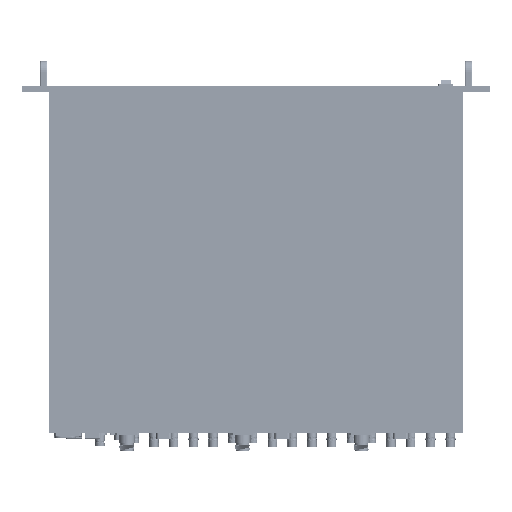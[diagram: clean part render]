
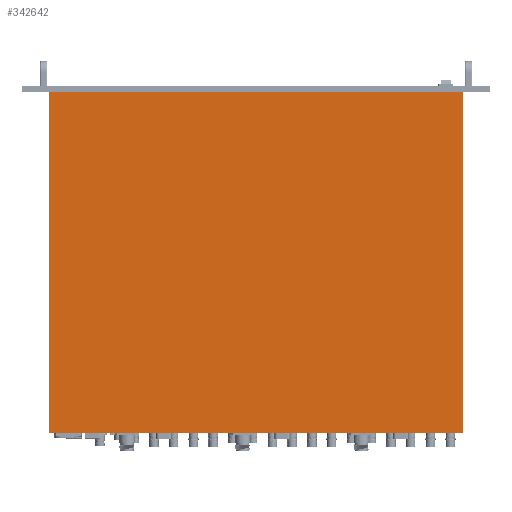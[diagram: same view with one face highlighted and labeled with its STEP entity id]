
A CAD part, front view. The second image highlights one B-rep face of the part: STEP entity #342642.
In plain terms, the highlighted planar face has unit normal (0, -1, 0).
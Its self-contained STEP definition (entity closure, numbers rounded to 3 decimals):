
#2725 = EDGE_CURVE ( 'NONE', #103236, #394526, #219815, .T. ) ;
#17706 = CARTESIAN_POINT ( 'NONE',  ( 8.365, 0., -6.906 ) ) ;
#18416 = DIRECTION ( 'NONE',  ( 0., 1., 0. ) ) ;
#21558 = EDGE_CURVE ( 'NONE', #310108, #354806, #346097, .T. ) ;
#31255 = DIRECTION ( 'NONE',  ( 1., 0., 0. ) ) ;
#32823 = VECTOR ( 'NONE', #135715, 39.37 ) ;
#60766 = CARTESIAN_POINT ( 'NONE',  ( -8.365, 0., -6.906 ) ) ;
#69654 = CARTESIAN_POINT ( 'NONE',  ( -8.365, 0., 6.906 ) ) ;
#72956 = ORIENTED_EDGE ( 'NONE', *, *, #135821, .F. ) ;
#95271 = ORIENTED_EDGE ( 'NONE', *, *, #2725, .F. ) ;
#95273 = DIRECTION ( 'NONE',  ( 1., 0., 0. ) ) ;
#103236 = VERTEX_POINT ( 'NONE', #186333 ) ;
#120229 = EDGE_LOOP ( 'NONE', ( #444730, #144676, #95271, #72956 ) ) ;
#135715 = DIRECTION ( 'NONE',  ( 0., 0., -1. ) ) ;
#135821 = EDGE_CURVE ( 'NONE', #354806, #103236, #363653, .T. ) ;
#142577 = DIRECTION ( 'NONE',  ( 0., 0., 1. ) ) ;
#143583 = CARTESIAN_POINT ( 'NONE',  ( -8.365, 0., 6.906 ) ) ;
#143593 = VECTOR ( 'NONE', #31255, 39.37 ) ;
#144676 = ORIENTED_EDGE ( 'NONE', *, *, #154361, .F. ) ;
#154361 = EDGE_CURVE ( 'NONE', #394526, #310108, #413934, .T. ) ;
#166514 = CARTESIAN_POINT ( 'NONE',  ( 8.365, 0., 6.906 ) ) ;
#176381 = DIRECTION ( 'NONE',  ( -1., 0., 0. ) ) ;
#186333 = CARTESIAN_POINT ( 'NONE',  ( 8.365, 0., -6.906 ) ) ;
#219815 = LINE ( 'NONE', #17706, #311037 ) ;
#237468 = VECTOR ( 'NONE', #142577, 39.37 ) ;
#277849 = FACE_OUTER_BOUND ( 'NONE', #120229, .T. ) ;
#310108 = VERTEX_POINT ( 'NONE', #143583 ) ;
#311037 = VECTOR ( 'NONE', #176381, 39.37 ) ;
#342642 = ADVANCED_FACE ( 'NONE', ( #277849 ), #472290, .F. ) ;
#346097 = LINE ( 'NONE', #69654, #143593 ) ;
#354806 = VERTEX_POINT ( 'NONE', #382275 ) ;
#363653 = LINE ( 'NONE', #166514, #32823 ) ;
#367811 = AXIS2_PLACEMENT_3D ( 'NONE', #486739, #18416, #95273 ) ;
#382275 = CARTESIAN_POINT ( 'NONE',  ( 8.365, 0., 6.906 ) ) ;
#386639 = CARTESIAN_POINT ( 'NONE',  ( -8.365, 0., -6.906 ) ) ;
#394526 = VERTEX_POINT ( 'NONE', #386639 ) ;
#413934 = LINE ( 'NONE', #60766, #237468 ) ;
#444730 = ORIENTED_EDGE ( 'NONE', *, *, #21558, .F. ) ;
#472290 = PLANE ( 'NONE',  #367811 ) ;
#486739 = CARTESIAN_POINT ( 'NONE',  ( 0., 0., 0. ) ) ;
